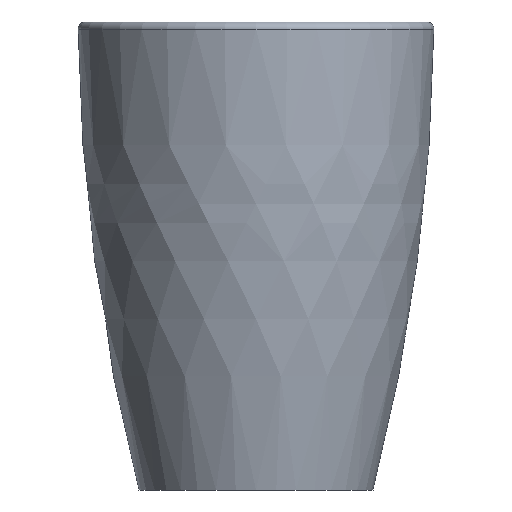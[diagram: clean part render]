
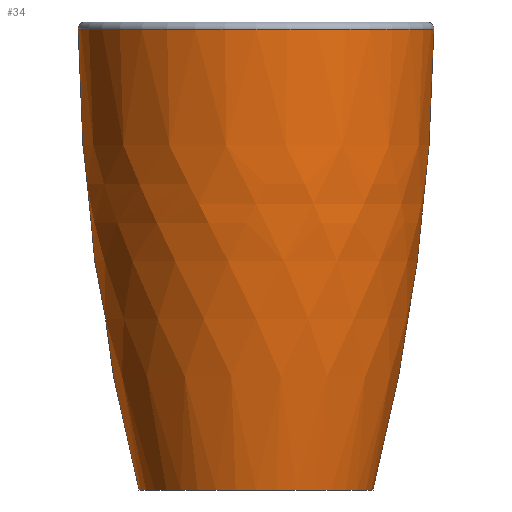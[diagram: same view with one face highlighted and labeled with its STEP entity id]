
A CAD part, front view. The second image highlights one B-rep face of the part: STEP entity #34.
In plain terms, the highlighted face is a revolution surface.
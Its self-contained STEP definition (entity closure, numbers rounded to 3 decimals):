
#21 = EDGE_CURVE('',#22,#22,#24,.T.);
#22 = VERTEX_POINT('',#23);
#23 = CARTESIAN_POINT('',(25.,0.,0.));
#24 = CIRCLE('',#25,25.);
#25 = AXIS2_PLACEMENT_3D('',#26,#27,#28);
#26 = CARTESIAN_POINT('',(0.,0.,0.));
#27 = DIRECTION('',(0.,0.,1.));
#28 = DIRECTION('',(1.,0.,0.));
#34 = ADVANCED_FACE('',(#35),#55,.T.);
#35 = FACE_BOUND('',#36,.T.);
#36 = EDGE_LOOP('',(#37,#38,#47,#54));
#37 = ORIENTED_EDGE('',*,*,#21,.T.);
#38 = ORIENTED_EDGE('',*,*,#39,.T.);
#39 = EDGE_CURVE('',#22,#40,#42,.T.);
#40 = VERTEX_POINT('',#41);
#41 = CARTESIAN_POINT('',(38.,0.,98.483));
#42 = CIRCLE('',#43,416.187);
#43 = AXIS2_PLACEMENT_3D('',#44,#45,#46);
#44 = CARTESIAN_POINT('',(-378.159,0.,103.317));
#45 = DIRECTION('',(0.,-1.,0.));
#46 = DIRECTION('',(0.969,0.,-0.248));
#47 = ORIENTED_EDGE('',*,*,#48,.F.);
#48 = EDGE_CURVE('',#40,#40,#49,.T.);
#49 = CIRCLE('',#50,38.);
#50 = AXIS2_PLACEMENT_3D('',#51,#52,#53);
#51 = CARTESIAN_POINT('',(0.,0.,98.483));
#52 = DIRECTION('',(0.,0.,1.));
#53 = DIRECTION('',(1.,0.,0.));
#54 = ORIENTED_EDGE('',*,*,#39,.F.);
#55 = SURFACE_OF_REVOLUTION('',#56,#61);
#56 = CIRCLE('',#57,416.187);
#57 = AXIS2_PLACEMENT_3D('',#58,#59,#60);
#58 = CARTESIAN_POINT('',(-378.159,0.,103.317));
#59 = DIRECTION('',(0.,-1.,0.));
#60 = DIRECTION('',(0.969,0.,-0.248));
#61 = AXIS1_PLACEMENT('',#62,#63);
#62 = CARTESIAN_POINT('',(0.,0.,0.));
#63 = DIRECTION('',(0.,0.,1.));
